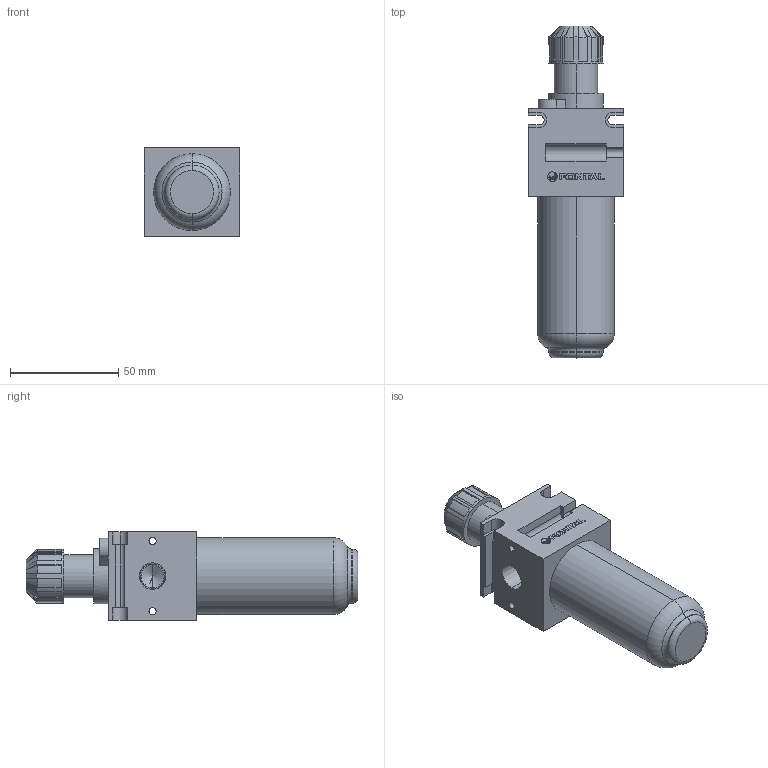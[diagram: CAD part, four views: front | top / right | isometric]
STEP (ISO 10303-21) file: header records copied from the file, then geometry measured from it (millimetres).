
FILE_DESCRIPTION (( 'STEP AP203' ), '1' );
FILE_NAME ('L45-02#.STEP', '2016-01-14T18:56:50', ( '' ), ( '' ), 'SwSTEP 2.0', 'SolidWorks 2014', '' );
FILE_SCHEMA (( 'CONFIG_CONTROL_DESIGN' ));
Length unit declared in the file: millimetre
Products named in the file (9): L45-1; F45-2; L508-5; L系列旋轉部; L45-3; L45-02#; L45-2; L45=44; F45-MARK
Assembly tree (8 placements, depth 3):
  L45-02#
    L系列旋轉部
      L45-2
      L45-1
      L508-5
    L45=44
      F45-2
      F45-MARK
      L45-3
Bounding box: 44 x 153.5 x 41.12 mm (x, y, z)
Volume: 146908.9 mm3; surface area: 29149.3 mm2
Topology: 12 solids, 12 shells, 297 faces, 792 edges, 522 vertices
Faces by surface type: plane 191, cylinder 72, cone 20, bspline 8, torus 6
Entity records: 10247 total; most frequent: CARTESIAN_POINT 1838, ORIENTED_EDGE 1576, DIRECTION 1524, EDGE_CURVE 788, VECTOR 548, LINE 548, VERTEX_POINT 522, AXIS2_PLACEMENT_3D 488
